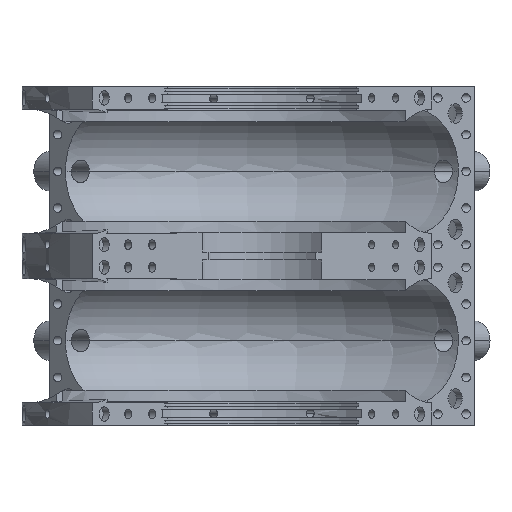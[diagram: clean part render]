
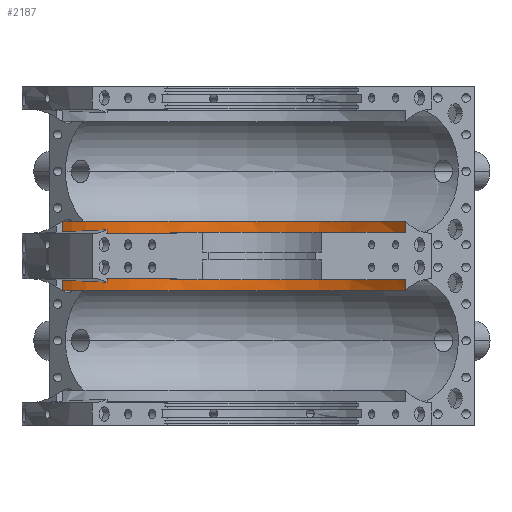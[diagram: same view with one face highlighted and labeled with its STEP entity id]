
A CAD part, front view. The second image highlights one B-rep face of the part: STEP entity #2187.
In plain terms, the highlighted cylindrical face has radius 71.8 mm (diameter 143.6 mm), a partial arc.
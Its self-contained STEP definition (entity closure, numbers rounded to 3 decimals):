
#2187=ADVANCED_FACE('',(#4554,#4555,#4556,#4557),#4558,.F.);
#4554=FACE_BOUND('',#6919,.T.);
#4555=FACE_OUTER_BOUND('',#6920,.T.);
#4556=FACE_BOUND('',#6921,.T.);
#4557=FACE_BOUND('',#6922,.T.);
#4558=CYLINDRICAL_SURFACE('',#6923,71.8);
#6919=EDGE_LOOP('',(#14000,#14001,#14002,#14003));
#6920=EDGE_LOOP('',(#14004,#14005,#14006,#14007,#14008,#14009,#14010,#14011));
#6921=EDGE_LOOP('',(#14012,#14013,#14014,#14015));
#6922=EDGE_LOOP('',(#14016,#14017,#14018,#14019));
#6923=AXIS2_PLACEMENT_3D('',#14020,#14021,#14022);
#14000=ORIENTED_EDGE('',*,*,#15875,.F.);
#14001=ORIENTED_EDGE('',*,*,#14528,.F.);
#14002=ORIENTED_EDGE('',*,*,#16009,.F.);
#14003=ORIENTED_EDGE('',*,*,#16652,.T.);
#14004=ORIENTED_EDGE('',*,*,#16494,.T.);
#14005=ORIENTED_EDGE('',*,*,#16873,.T.);
#14006=ORIENTED_EDGE('',*,*,#16739,.F.);
#14007=ORIENTED_EDGE('',*,*,#16014,.F.);
#14008=ORIENTED_EDGE('',*,*,#14098,.T.);
#14009=ORIENTED_EDGE('',*,*,#15870,.F.);
#14010=ORIENTED_EDGE('',*,*,#16741,.F.);
#14011=ORIENTED_EDGE('',*,*,#14264,.T.);
#14012=ORIENTED_EDGE('',*,*,#15652,.T.);
#14013=ORIENTED_EDGE('',*,*,#15873,.F.);
#14014=ORIENTED_EDGE('',*,*,#16219,.F.);
#14015=ORIENTED_EDGE('',*,*,#16011,.F.);
#14016=ORIENTED_EDGE('',*,*,#15713,.T.);
#14017=ORIENTED_EDGE('',*,*,#15878,.F.);
#14018=ORIENTED_EDGE('',*,*,#15635,.F.);
#14019=ORIENTED_EDGE('',*,*,#16006,.F.);
#14020=CARTESIAN_POINT('',(0.,0.,68.4));
#14021=DIRECTION('',(0.,0.,1.0));
#14022=DIRECTION('',(1.0,0.,0.));
#14098=EDGE_CURVE('',#16962,#16959,#16963,.T.);
#14264=EDGE_CURVE('',#17265,#17263,#17266,.T.);
#14528=EDGE_CURVE('',#17737,#17733,#17739,.T.);
#15635=EDGE_CURVE('',#19529,#19525,#19531,.T.);
#15652=EDGE_CURVE('',#19555,#19552,#19556,.T.);
#15713=EDGE_CURVE('',#19635,#19633,#19636,.T.);
#15870=EDGE_CURVE('',#19856,#16959,#19858,.T.);
#15873=EDGE_CURVE('',#19861,#19552,#19863,.T.);
#15875=EDGE_CURVE('',#17733,#19865,#19866,.T.);
#15878=EDGE_CURVE('',#19525,#19633,#19870,.T.);
#16006=EDGE_CURVE('',#19635,#19529,#20047,.T.);
#16009=EDGE_CURVE('',#20050,#17737,#20052,.T.);
#16011=EDGE_CURVE('',#19555,#20054,#20055,.T.);
#16014=EDGE_CURVE('',#16962,#20059,#20060,.T.);
#16219=EDGE_CURVE('',#20054,#19861,#20343,.T.);
#16494=EDGE_CURVE('',#17263,#20703,#20705,.T.);
#16652=EDGE_CURVE('',#20050,#19865,#20886,.T.);
#16739=EDGE_CURVE('',#20059,#20983,#20984,.T.);
#16741=EDGE_CURVE('',#17265,#19856,#20986,.T.);
#16873=EDGE_CURVE('',#20703,#20983,#21132,.T.);
#16959=VERTEX_POINT('',#21263);
#16962=VERTEX_POINT('',#21267);
#16963=LINE('',#21268,#21269);
#17263=VERTEX_POINT('',#22007);
#17265=VERTEX_POINT('',#22012);
#17266=CIRCLE('',#22013,71.8);
#17733=VERTEX_POINT('',#23223);
#17737=VERTEX_POINT('',#23229);
#17739=LINE('',#23232,#23233);
#19525=VERTEX_POINT('',#26927);
#19529=VERTEX_POINT('',#26933);
#19531=LINE('',#26936,#26937);
#19552=VERTEX_POINT('',#26964);
#19555=VERTEX_POINT('',#26968);
#19556=LINE('',#26969,#26970);
#19633=VERTEX_POINT('',#27068);
#19635=VERTEX_POINT('',#27071);
#19636=LINE('',#27072,#27073);
#19856=VERTEX_POINT('',#27499);
#19858=CIRCLE('',#27502,71.8);
#19861=VERTEX_POINT('',#27505);
#19863=CIRCLE('',#27508,71.8);
#19865=VERTEX_POINT('',#27510);
#19866=CIRCLE('',#27511,71.8);
#19870=CIRCLE('',#27516,71.8);
#20047=CIRCLE('',#27909,71.8);
#20050=VERTEX_POINT('',#27912);
#20052=CIRCLE('',#27915,71.8);
#20054=VERTEX_POINT('',#27917);
#20055=CIRCLE('',#27918,71.8);
#20059=VERTEX_POINT('',#27923);
#20060=CIRCLE('',#27924,71.8);
#20343=LINE('',#28526,#28527);
#20703=VERTEX_POINT('',#29544);
#20705=LINE('',#29551,#29552);
#20886=LINE('',#30019,#30020);
#20983=VERTEX_POINT('',#30336);
#20984=LINE('',#30337,#30338);
#20986=LINE('',#30340,#30341);
#21132=CIRCLE('',#30659,71.8);
#21263=CARTESIAN_POINT('',(47.105,54.188,68.4));
#21267=CARTESIAN_POINT('',(47.105,54.188,51.6));
#21268=CARTESIAN_POINT('',(47.105,54.188,50.0));
#21269=VECTOR('',#30762,1.0);
#22007=CARTESIAN_POINT('',(-70.566,13.254,72.4));
#22012=CARTESIAN_POINT('',(50.77,50.77,72.4));
#22013=AXIS2_PLACEMENT_3D('',#31023,#31024,#31025);
#23223=CARTESIAN_POINT('',(1.5,71.784,68.4));
#23229=CARTESIAN_POINT('',(1.5,71.784,51.6));
#23232=CARTESIAN_POINT('',(1.5,71.784,50.0));
#23233=VECTOR('',#31432,1.0);
#26927=CARTESIAN_POINT('',(-28.978,65.693,68.4));
#26933=CARTESIAN_POINT('',(-28.978,65.693,51.6));
#26936=CARTESIAN_POINT('',(-28.978,65.693,50.0));
#26937=VECTOR('',#33155,1.0);
#26964=CARTESIAN_POINT('',(28.978,65.693,68.4));
#26968=CARTESIAN_POINT('',(28.978,65.693,51.6));
#26969=CARTESIAN_POINT('',(28.978,65.693,50.0));
#26970=VECTOR('',#33181,1.0);
#27068=CARTESIAN_POINT('',(-31.697,64.425,68.4));
#27071=CARTESIAN_POINT('',(-31.697,64.425,51.6));
#27072=CARTESIAN_POINT('',(-31.697,64.425,50.0));
#27073=VECTOR('',#33273,1.0);
#27499=CARTESIAN_POINT('',(50.77,50.77,68.4));
#27502=AXIS2_PLACEMENT_3D('',#33490,#33491,#33492);
#27505=CARTESIAN_POINT('',(31.697,64.425,68.4));
#27508=AXIS2_PLACEMENT_3D('',#33497,#33498,#33499);
#27510=CARTESIAN_POINT('',(-1.5,71.784,68.4));
#27511=AXIS2_PLACEMENT_3D('',#33503,#33504,#33505);
#27516=AXIS2_PLACEMENT_3D('',#33510,#33511,#33512);
#27909=AXIS2_PLACEMENT_3D('',#33698,#33699,#33700);
#27912=CARTESIAN_POINT('',(-1.5,71.784,51.6));
#27915=AXIS2_PLACEMENT_3D('',#33705,#33706,#33707);
#27917=CARTESIAN_POINT('',(31.697,64.425,51.6));
#27918=AXIS2_PLACEMENT_3D('',#33711,#33712,#33713);
#27923=CARTESIAN_POINT('',(50.77,50.77,51.6));
#27924=AXIS2_PLACEMENT_3D('',#33718,#33719,#33720);
#28526=CARTESIAN_POINT('',(31.697,64.425,50.0));
#28527=VECTOR('',#34042,1.0);
#29544=CARTESIAN_POINT('',(-70.566,13.254,47.6));
#29551=CARTESIAN_POINT('',(-70.566,13.254,0.0));
#29552=VECTOR('',#34406,1.0);
#30019=CARTESIAN_POINT('',(-1.5,71.784,50.0));
#30020=VECTOR('',#34567,1.0);
#30336=CARTESIAN_POINT('',(50.77,50.77,47.6));
#30337=CARTESIAN_POINT('',(50.77,50.77,49.6));
#30338=VECTOR('',#34636,1.0);
#30340=CARTESIAN_POINT('',(50.77,50.77,68.4));
#30341=VECTOR('',#34640,1.0);
#30659=AXIS2_PLACEMENT_3D('',#34769,#34770,#34771);
#30762=DIRECTION('',(0.,0.,1.0));
#31023=CARTESIAN_POINT('',(0.,0.,72.4));
#31024=DIRECTION('',(0.,0.,1.0));
#31025=DIRECTION('',(1.0,0.,0.));
#31432=DIRECTION('',(0.,0.,1.0));
#33155=DIRECTION('',(0.,0.,1.0));
#33181=DIRECTION('',(0.,0.,1.0));
#33273=DIRECTION('',(0.,0.,1.0));
#33490=CARTESIAN_POINT('',(0.,0.,68.4));
#33491=DIRECTION('',(0.,0.,1.0));
#33492=DIRECTION('',(1.0,0.,0.));
#33497=CARTESIAN_POINT('',(0.,0.,68.4));
#33498=DIRECTION('',(0.,0.,1.0));
#33499=DIRECTION('',(1.0,0.,0.));
#33503=CARTESIAN_POINT('',(0.,0.,68.4));
#33504=DIRECTION('',(0.,0.,1.0));
#33505=DIRECTION('',(1.0,0.,0.));
#33510=CARTESIAN_POINT('',(0.,0.,68.4));
#33511=DIRECTION('',(0.,0.,1.0));
#33512=DIRECTION('',(1.0,0.,0.));
#33698=CARTESIAN_POINT('',(0.,0.,51.6));
#33699=DIRECTION('',(0.,0.,-1.0));
#33700=DIRECTION('',(1.0,0.,0.));
#33705=CARTESIAN_POINT('',(0.,0.,51.6));
#33706=DIRECTION('',(0.,0.,-1.0));
#33707=DIRECTION('',(1.0,0.,0.));
#33711=CARTESIAN_POINT('',(0.,0.,51.6));
#33712=DIRECTION('',(0.,0.,-1.0));
#33713=DIRECTION('',(1.0,0.,0.));
#33718=CARTESIAN_POINT('',(0.,0.,51.6));
#33719=DIRECTION('',(0.,0.,-1.0));
#33720=DIRECTION('',(1.0,0.,0.));
#34042=DIRECTION('',(0.,0.,1.0));
#34406=DIRECTION('',(0.,0.,-1.0));
#34567=DIRECTION('',(0.,0.,1.0));
#34636=DIRECTION('',(0.,0.,-1.0));
#34640=DIRECTION('',(0.,0.,-1.0));
#34769=CARTESIAN_POINT('',(0.,0.,47.6));
#34770=DIRECTION('',(0.,0.,-1.0));
#34771=DIRECTION('',(1.0,0.,0.));
